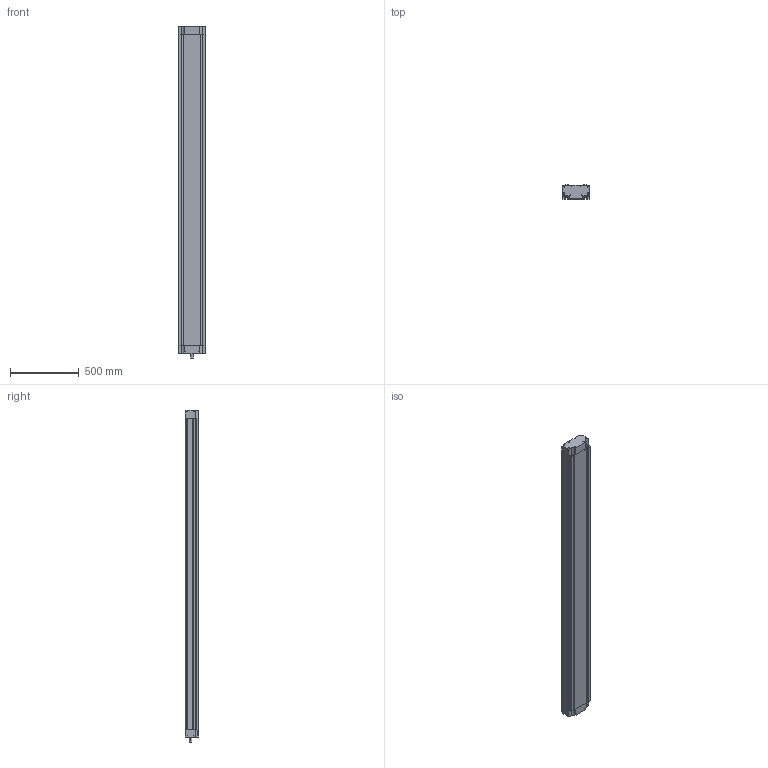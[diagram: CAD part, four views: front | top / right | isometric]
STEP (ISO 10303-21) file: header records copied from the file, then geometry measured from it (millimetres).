
FILE_DESCRIPTION (( 'STEP AP203' ), '1' );
FILE_NAME ('MSY200B-2000-LL3232-P7.STEP', '2013-11-02T05:40:52', ( '微软用户' ), ( '微软中国' ), 'SwSTEP 2.0', 'SolidWorks 2010', '' );
FILE_SCHEMA (( 'CONFIG_CONTROL_DESIGN' ));
Length unit declared in the file: millimetre
Products named in the file (1): MSY200B-2000-LL3232-P7
Bounding box: 200.2 x 99.96 x 2419 mm (x, y, z)
Volume: 43190595.2 mm3; surface area: 2399717.7 mm2
Topology: 1 solids, 1 shells, 326 faces, 855 edges, 552 vertices
Faces by surface type: plane 220, cylinder 98, cone 8
Entity records: 10045 total; most frequent: CARTESIAN_POINT 1756, DIRECTION 1702, ORIENTED_EDGE 1694, EDGE_CURVE 847, VECTOR 642, LINE 642, VERTEX_POINT 552, AXIS2_PLACEMENT_3D 530
